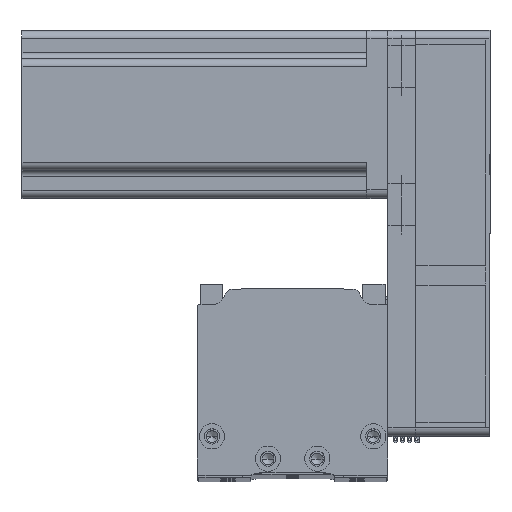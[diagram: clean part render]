
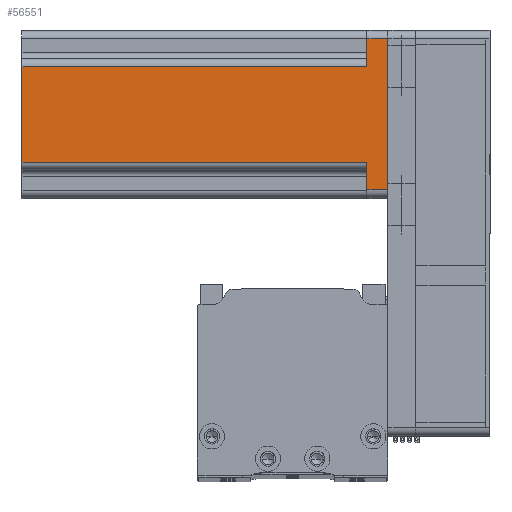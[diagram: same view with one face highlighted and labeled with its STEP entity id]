
A CAD part, top view. The second image highlights one B-rep face of the part: STEP entity #56551.
In plain terms, the highlighted planar face has unit normal (0, 0, 1) as drawn and (0, -1, 0) by its records, which use the part's own axes.
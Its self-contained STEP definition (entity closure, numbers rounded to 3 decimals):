
#86 = EDGE_CURVE ( 'NONE', #52176, #13000, #18468, .T. ) ;
#740 = EDGE_CURVE ( 'NONE', #2048, #59588, #58488, .T. ) ;
#2048 = VERTEX_POINT ( 'NONE', #11575 ) ;
#2052 = CARTESIAN_POINT ( 'NONE',  ( 27., -30., 7.5 ) ) ;
#2492 = CARTESIAN_POINT ( 'NONE',  ( 30., -30., 0. ) ) ;
#2745 = EDGE_CURVE ( 'NONE', #33443, #52176, #11197, .T. ) ;
#4571 = ORIENTED_EDGE ( 'NONE', *, *, #86, .T. ) ;
#5528 = CARTESIAN_POINT ( 'NONE',  ( 30., -30., 130.7 ) ) ;
#5795 = DIRECTION ( 'NONE',  ( 1., 0., 0. ) ) ;
#6296 = EDGE_CURVE ( 'NONE', #59588, #33443, #52535, .T. ) ;
#7328 = VERTEX_POINT ( 'NONE', #49958 ) ;
#9735 = CARTESIAN_POINT ( 'NONE',  ( -17., -30., 130.7 ) ) ;
#10279 = CARTESIAN_POINT ( 'NONE',  ( 27., -30., 0. ) ) ;
#10369 = DIRECTION ( 'NONE',  ( 1., 0., 0. ) ) ;
#10371 = DIRECTION ( 'NONE',  ( -1., 0., 0. ) ) ;
#11197 = LINE ( 'NONE', #49731, #59663 ) ;
#11575 = CARTESIAN_POINT ( 'NONE',  ( -27., -30., 0. ) ) ;
#13000 = VERTEX_POINT ( 'NONE', #49450 ) ;
#13058 = EDGE_CURVE ( 'NONE', #15753, #2048, #59495, .T. ) ;
#13827 = DIRECTION ( 'NONE',  ( 0., 0., -1. ) ) ;
#13885 = VECTOR ( 'NONE', #23285, 1000. ) ;
#14435 = EDGE_CURVE ( 'NONE', #15753, #7328, #22101, .T. ) ;
#15753 = VERTEX_POINT ( 'NONE', #42199 ) ;
#17436 = LINE ( 'NONE', #34759, #41658 ) ;
#17919 = ORIENTED_EDGE ( 'NONE', *, *, #14435, .F. ) ;
#17996 = EDGE_CURVE ( 'NONE', #27778, #13000, #17436, .T. ) ;
#18439 = CARTESIAN_POINT ( 'NONE',  ( 27., -30., 130.7 ) ) ;
#18468 = LINE ( 'NONE', #40769, #29804 ) ;
#18571 = ORIENTED_EDGE ( 'NONE', *, *, #2745, .T. ) ;
#21183 = EDGE_CURVE ( 'NONE', #27778, #7328, #43599, .T. ) ;
#22101 = LINE ( 'NONE', #39367, #23632 ) ;
#23285 = DIRECTION ( 'NONE',  ( 0., 0., 1. ) ) ;
#23632 = VECTOR ( 'NONE', #10369, 1000. ) ;
#24575 = PLANE ( 'NONE',  #26721 ) ;
#26721 = AXIS2_PLACEMENT_3D ( 'NONE', #5528, #39370, #10371 ) ;
#27778 = VERTEX_POINT ( 'NONE', #9735 ) ;
#29804 = VECTOR ( 'NONE', #41408, 1000. ) ;
#30608 = CARTESIAN_POINT ( 'NONE',  ( -27., -30., 130.7 ) ) ;
#30723 = VECTOR ( 'NONE', #13827, 1000. ) ;
#33443 = VERTEX_POINT ( 'NONE', #2052 ) ;
#33738 = VECTOR ( 'NONE', #54741, 1000. ) ;
#33883 = FACE_OUTER_BOUND ( 'NONE', #57696, .T. ) ;
#34123 = ORIENTED_EDGE ( 'NONE', *, *, #17996, .F. ) ;
#34759 = CARTESIAN_POINT ( 'NONE',  ( 30., -30., 130.7 ) ) ;
#35337 = ORIENTED_EDGE ( 'NONE', *, *, #6296, .T. ) ;
#35661 = DIRECTION ( 'NONE',  ( 1., 0., 0. ) ) ;
#37363 = CARTESIAN_POINT ( 'NONE',  ( 17., -30., 7.5 ) ) ;
#37748 = ORIENTED_EDGE ( 'NONE', *, *, #740, .T. ) ;
#39367 = CARTESIAN_POINT ( 'NONE',  ( -20., -30., 7.5 ) ) ;
#39370 = DIRECTION ( 'NONE',  ( 0., 1., 0. ) ) ;
#40769 = CARTESIAN_POINT ( 'NONE',  ( 17., -30., 130.7 ) ) ;
#41408 = DIRECTION ( 'NONE',  ( 0., 0., 1. ) ) ;
#41658 = VECTOR ( 'NONE', #5795, 1000. ) ;
#42199 = CARTESIAN_POINT ( 'NONE',  ( -27., -30., 7.5 ) ) ;
#42615 = CARTESIAN_POINT ( 'NONE',  ( -17., -30., 130.7 ) ) ;
#43599 = LINE ( 'NONE', #42615, #30723 ) ;
#44651 = DIRECTION ( 'NONE',  ( -1., 0., 0. ) ) ;
#48014 = ORIENTED_EDGE ( 'NONE', *, *, #21183, .T. ) ;
#49450 = CARTESIAN_POINT ( 'NONE',  ( 17., -30., 130.7 ) ) ;
#49731 = CARTESIAN_POINT ( 'NONE',  ( 20., -30., 7.5 ) ) ;
#49958 = CARTESIAN_POINT ( 'NONE',  ( -17., -30., 7.5 ) ) ;
#52176 = VERTEX_POINT ( 'NONE', #37363 ) ;
#52535 = LINE ( 'NONE', #18439, #13885 ) ;
#54741 = DIRECTION ( 'NONE',  ( 0., 0., -1. ) ) ;
#55443 = VECTOR ( 'NONE', #35661, 1000. ) ;
#56551 = ADVANCED_FACE ( 'NONE', ( #33883 ), #24575, .F. ) ;
#57696 = EDGE_LOOP ( 'NONE', ( #34123, #48014, #17919, #58281, #37748, #35337, #18571, #4571 ) ) ;
#58281 = ORIENTED_EDGE ( 'NONE', *, *, #13058, .T. ) ;
#58488 = LINE ( 'NONE', #2492, #55443 ) ;
#59495 = LINE ( 'NONE', #30608, #33738 ) ;
#59588 = VERTEX_POINT ( 'NONE', #10279 ) ;
#59663 = VECTOR ( 'NONE', #44651, 1000. ) ;
